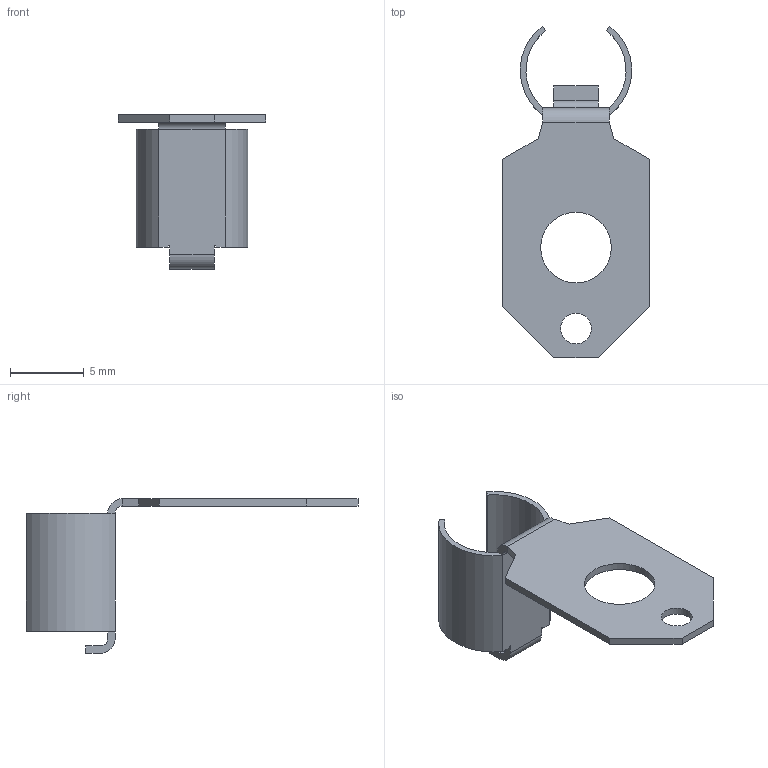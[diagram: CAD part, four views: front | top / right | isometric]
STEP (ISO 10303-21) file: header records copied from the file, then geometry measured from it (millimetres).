
FILE_DESCRIPTION(/* description */ (''),/* implementation_level */ '2;1');
FILE_NAME(/* name */ 'Držák 586523.stp',/* time_stamp */ '2024-05-29T12:37:55+02:00',/* author */ ('Jerabek'),/* organization */ ('OEZ'),/* preprocessor_version */ 'ST-DEVELOPER v18.101',/* originating_system */ 'SIEMENS PLM Software NX 2008',/* authorisation */ '');
FILE_SCHEMA (('AUTOMOTIVE_DESIGN { 1 0 10303 214 3 1 1 1 }'));
Length unit declared in the file: millimetre
Products named in the file (1): Držák 586523
Bounding box: 10 x 22.55 x 10.5 mm (x, y, z)
Volume: 123.7 mm3; surface area: 611.6 mm2
Topology: 3 solids, 3 shells, 44 faces, 110 edges, 73 vertices
Faces by surface type: plane 34, cylinder 10
Full cylindrical faces by diameter (mm): 2.1 x1, 4.8 x1
Entity records: 1362 total; most frequent: CARTESIAN_POINT 227, DIRECTION 220, ORIENTED_EDGE 216, EDGE_CURVE 108, LINE 88, VECTOR 88, VERTEX_POINT 72, AXIS2_PLACEMENT_3D 66
